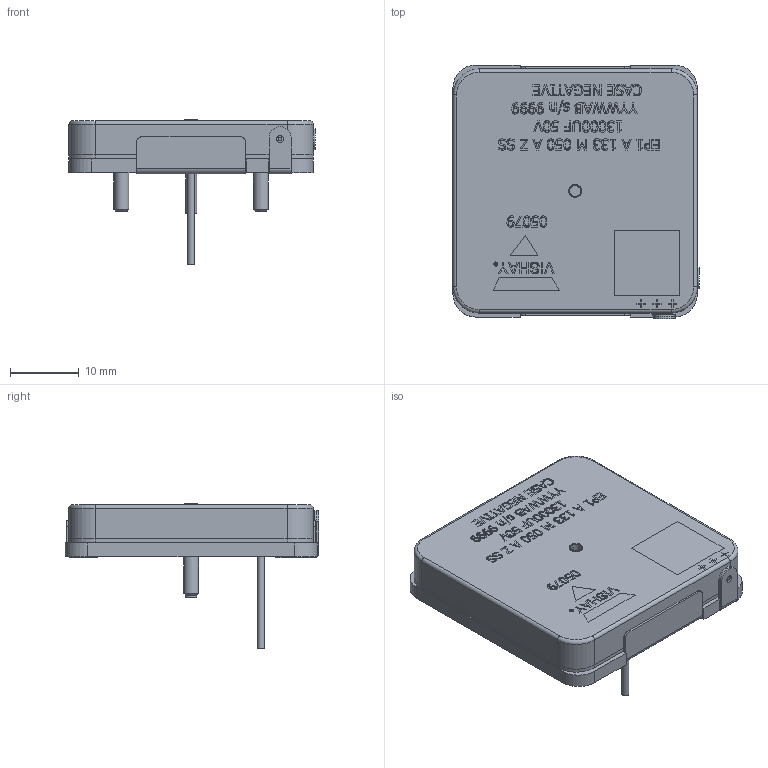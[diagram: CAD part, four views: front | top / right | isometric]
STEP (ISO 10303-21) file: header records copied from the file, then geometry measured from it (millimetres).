
FILE_DESCRIPTION(/* description */ (''),/* implementation_level */ '2;1');
FILE_NAME(/* name */ 'EP1-A model for data share.stp',/* time_stamp */ '2024-06-03T15:26:20+03:00',/* author */ ('EPetuhov'),/* organization */ (''),/* preprocessor_version */ 'ST-DEVELOPER v20',/* originating_system */ 'Autodesk Inventor 2024',/* authorisation */ '');
FILE_SCHEMA (('AUTOMOTIVE_DESIGN { 1 0 10303 214 3 1 1 }'));
Length unit declared in the file: inch
Products named in the file (26): EP1-A model for data share; FS-28-00-007-00 EP1-A ASSEMBLY; FS-28-00-021-00 EP1 Ta Case Cathode Assembly; FS-06-00-006-00 SQUARE EP1 Ta CASE; HM-28-00-009-00 ADHESIVE COATED PTFE SKIVED TAPE; FS-28-00-024-00 EP1 Ta Cover Cathode Assembly; FS-06-00-007-00 SQUARE TANTALUM COVER HE-FS VIII; FS-28-00-009-00 TA CATHODE FOIL; FS-28-00-010-00 EP1 CENTER TUBE ASSEMBLY; FS-06-00-008-00 HE6 VIII CENTER TUBE-01; FS-10-00-001-00 EP1 CENTER TUBE INSULATOR; FS-28-00-011-00 HE6 GTMS BENT ASSEMBLY; FS-11-00-003-01 GTMS BARREL; FS-11-00-004-02 HE6 GTMS BENT WIRE; Part6; FS-28-00-020-00 EP1 Ta FILL PORT COVER.ipt; PA-FS-28-00-022-02 EP1 BASE ASSEMBLY; MS-FS-28-00-015-00; MS-FS-28-00-018-01; FS-28-00-016-00 BASE NUT BRACKET 1; MS-FS-28-00-022-00; MS-FS-28-00-023-00; FS-28-00-017-00 2-56 THREADED STUD; FS-28-00-026-00 EP1 ADHESIVE PAD (KAPTON).ipt; MS-FS-28-00-019-01; FS-08-00-001-00 POSITIVE LEAD INSULATOR 
Assembly tree (28 placements, depth 4):
  EP1-A model for data share
    FS-28-00-007-00 EP1-A ASSEMBLY
      FS-28-00-021-00 EP1 Ta Case Cathode Assembly
        FS-06-00-006-00 SQUARE EP1 Ta CASE
        FS-28-00-009-00 TA CATHODE FOIL
        HM-28-00-009-00 ADHESIVE COATED PTFE SKIVED TAPE
      FS-28-00-024-00 EP1 Ta Cover Cathode Assembly
        FS-06-00-007-00 SQUARE TANTALUM COVER HE-FS VIII
        FS-28-00-009-00 TA CATHODE FOIL
      FS-28-00-010-00 EP1 CENTER TUBE ASSEMBLY
        FS-06-00-008-00 HE6 VIII CENTER TUBE-01
        FS-10-00-001-00 EP1 CENTER TUBE INSULATOR
      FS-28-00-011-00 HE6 GTMS BENT ASSEMBLY
        FS-11-00-003-01 GTMS BARREL
        FS-11-00-004-02 HE6 GTMS BENT WIRE
        Part6
      FS-28-00-020-00 EP1 Ta FILL PORT COVER.ipt
    PA-FS-28-00-022-02 EP1 BASE ASSEMBLY
      MS-FS-28-00-015-00
      MS-FS-28-00-018-01  x2
      FS-28-00-016-00 BASE NUT BRACKET 1
      MS-FS-28-00-022-00
      MS-FS-28-00-023-00
      FS-28-00-017-00 2-56 THREADED STUD  x2
      FS-28-00-026-00 EP1 ADHESIVE PAD (KAPTON).ipt
      MS-FS-28-00-019-01
      FS-08-00-001-00 POSITIVE LEAD INSULATOR 
Bounding box: 35.81 x 36.96 x 21.07 mm (x, y, z)
Volume: 4508.6 mm3; surface area: 18889.5 mm2
Topology: 22 solids, 22 shells, 1470 faces, 3867 edges, 2550 vertices
Faces by surface type: plane 821, bspline 459, cylinder 160, torus 15, cone 13, sphere 2
Full cylindrical faces by diameter (mm): 0.508 x3, 1.016 x5, 1.524 x1, 1.575 x2, 1.6 x1, 1.626 x4, 1.702 x2, 1.727 x1, 1.854 x4, 1.905 x5, 1.93 x2, 2.108 x2, 2.184 x4, 2.286 x1, 2.616 x3, 2.705 x5, 3.048 x1
Entity records: 48235 total; most frequent: CARTESIAN_POINT 13774, ORIENTED_EDGE 7510, DIRECTION 5189, EDGE_CURVE 3755, LINE 2507, VECTOR 2507, VERTEX_POINT 2480, EDGE_LOOP 1571
